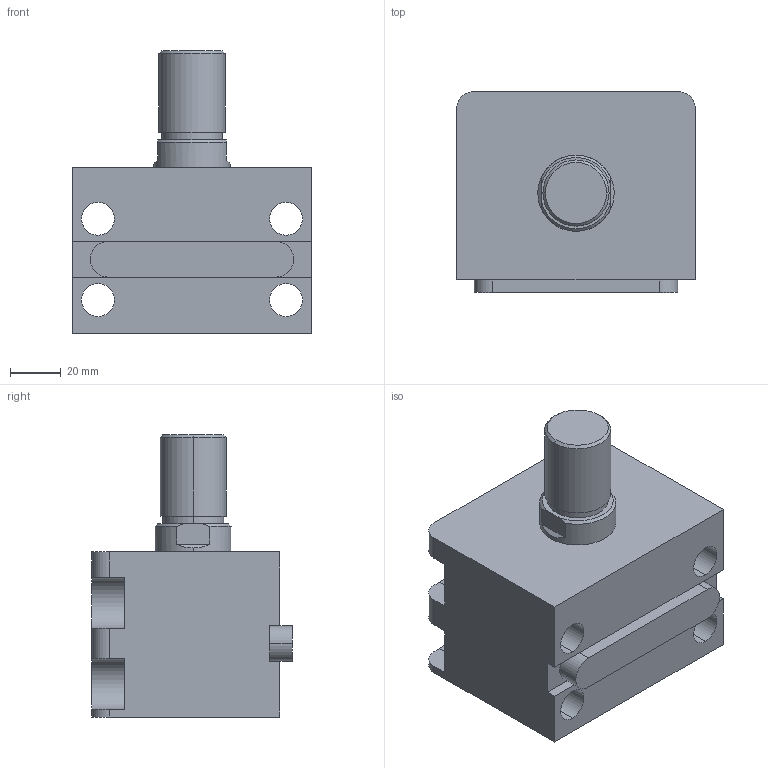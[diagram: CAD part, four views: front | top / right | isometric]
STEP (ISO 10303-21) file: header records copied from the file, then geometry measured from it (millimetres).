
FILE_DESCRIPTION (( 'STEP AP203' ), '1' );
FILE_NAME ('HTB-LA50-5W.STEP', '2019-10-09T07:04:51', ( '微软用户' ), ( '微软中国' ), 'SwSTEP 2.0', 'SolidWorks 2012', '' );
FILE_SCHEMA (( 'CONFIG_CONTROL_DESIGN' ));
Length unit declared in the file: millimetre
Products named in the file (4): HTB-LA50-5W; HTB-LA50-5W活塞杆; HTB-LA50-瑩; HTB-LA50-5掛极
Assembly tree (3 placements, depth 2):
  HTB-LA50-5W
    HTB-LA50-5掛极
    HTB-LA50-5W活塞杆
    HTB-LA50-瑩
Bounding box: 94 x 79 x 111 mm (x, y, z)
Volume: 422006.9 mm3; surface area: 74741.3 mm2
Topology: 3 solids, 3 shells, 90 faces, 219 edges, 144 vertices
Faces by surface type: plane 41, cylinder 37, cone 8, torus 4
Entity records: 3107 total; most frequent: DIRECTION 497, CARTESIAN_POINT 487, ORIENTED_EDGE 438, EDGE_CURVE 219, AXIS2_PLACEMENT_3D 190, VERTEX_POINT 144, LINE 117, VECTOR 117
